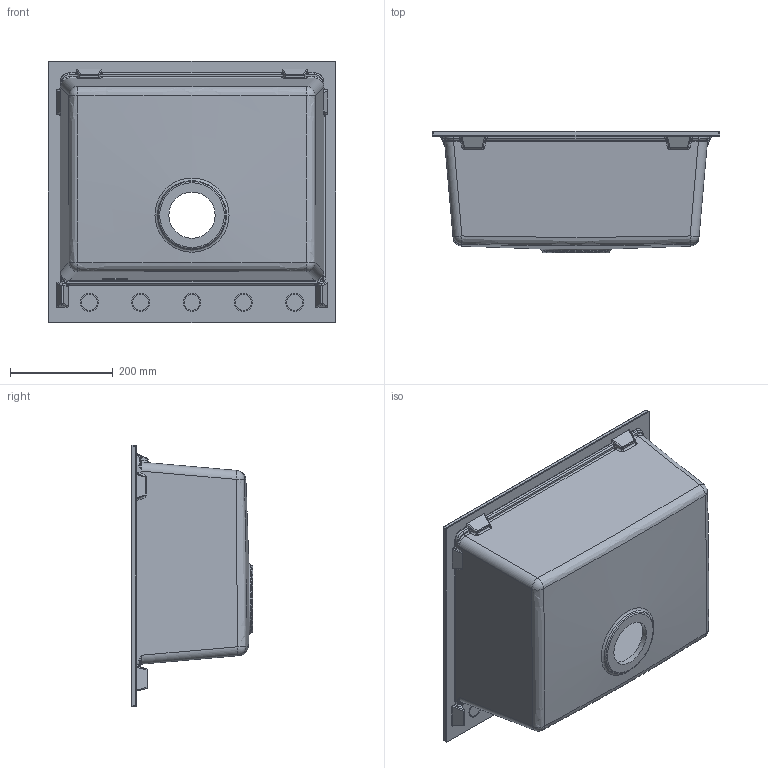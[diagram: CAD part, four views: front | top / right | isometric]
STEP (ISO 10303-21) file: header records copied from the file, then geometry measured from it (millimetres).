
FILE_DESCRIPTION (( 'STEP AP203' ), '1' );
FILE_NAME ('536349.STEP', '2026-06-04T12:21:14', ( '' ), ( '' ), 'SwSTEP 2.0', 'SolidWorks 2025', '' );
FILE_SCHEMA (( 'CONFIG_CONTROL_DESIGN' ));
Length unit declared in the file: millimetre
Products named in the file (1): 536349
Bounding box: 560 x 236.03 x 510 mm (x, y, z)
Volume: 5001540.6 mm3; surface area: 1230309.2 mm2
Topology: 1 solids, 1 shells, 386 faces, 913 edges, 506 vertices
Faces by surface type: bspline 153, cylinder 127, plane 77, sphere 20, cone 5, torus 4
Full cylindrical faces by diameter (mm): 31 x5, 35 x5, 90 x1
Entity records: 17847 total; most frequent: CARTESIAN_POINT 10444, ORIENTED_EDGE 1710, DIRECTION 1246, EDGE_CURVE 855, VERTEX_POINT 502, AXIS2_PLACEMENT_3D 483, EDGE_LOOP 421, FACE_OUTER_BOUND 401
